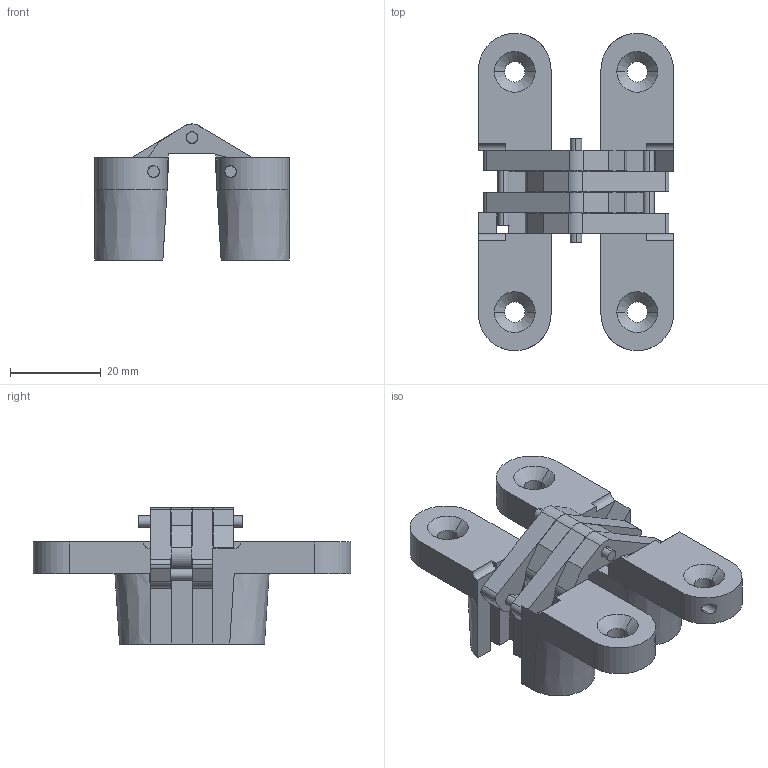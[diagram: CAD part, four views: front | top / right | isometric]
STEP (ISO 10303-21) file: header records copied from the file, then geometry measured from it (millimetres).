
FILE_DESCRIPTION (( 'STEP AP203' ), '1' );
FILE_NAME ('KH-50-3 3D ASS''Y.STEP', '2012-12-26T07:04:43', ( '' ), ( '' ), 'SwSTEP 2.0', 'SolidWorks 2010', '' );
FILE_SCHEMA (( 'CONFIG_CONTROL_DESIGN' ));
Length unit declared in the file: millimetre
Products named in the file (6): KH-50-3 3D ASS''Y; BODY; ARM PIN; ARM PIN 2; ARM; ARM PIN 1
Assembly tree (11 placements, depth 2):
  KH-50-3 3D ASS''Y
    ARM  x4
    ARM PIN 2  x2
    ARM PIN 1  x2
    BODY  x2
    ARM PIN
Bounding box: 43 x 70 x 29.99 mm (x, y, z)
Volume: 23803.3 mm3; surface area: 16056.4 mm2
Topology: 11 solids, 11 shells, 224 faces, 584 edges, 382 vertices
Faces by surface type: plane 126, cylinder 86, cone 8, bspline 4
Entity records: 3944 total; most frequent: CARTESIAN_POINT 812, DIRECTION 502, ORIENTED_EDGE 476, EDGE_CURVE 238, AXIS2_PLACEMENT_3D 175, VERTEX_POINT 155, LINE 152, VECTOR 152
